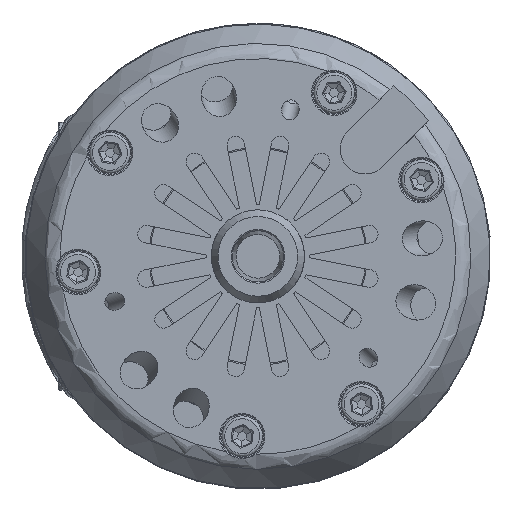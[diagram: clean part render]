
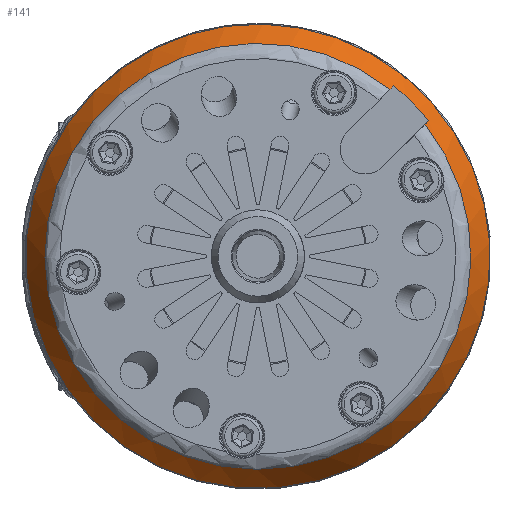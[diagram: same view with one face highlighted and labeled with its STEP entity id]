
A CAD part, front view. The second image highlights one B-rep face of the part: STEP entity #141.
In plain terms, the highlighted conical face has half-angle 30 degrees and reference radius 36.566 mm.
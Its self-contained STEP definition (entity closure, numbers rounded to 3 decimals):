
#141 = ADVANCED_FACE ( 'NONE', ( #37360, #19654 ), #4881, .T. ) ;
#344 = ORIENTED_EDGE ( 'NONE', *, *, #37033, .F. ) ;
#408 = VERTEX_POINT ( 'NONE', #28793 ) ;
#780 = CARTESIAN_POINT ( 'NONE',  ( 0., -16.2, 0. ) ) ;
#2431 = B_SPLINE_CURVE_WITH_KNOTS ( 'NONE', 3,
 ( #33358, #32227, #36531, #40814 ),
 .UNSPECIFIED., .F., .F.,
 ( 4, 4 ),
 ( 0.024, 0.025 ),
 .UNSPECIFIED. ) ;
#2471 = CARTESIAN_POINT ( 'NONE',  ( 28.892, -17.2, 22.881 ) ) ;
#4881 = CONICAL_SURFACE ( 'NONE', #30451, 36.566, 0.524 ) ;
#6023 = ORIENTED_EDGE ( 'NONE', *, *, #21151, .F. ) ;
#7880 = DIRECTION ( 'NONE',  ( 0., -1., 0. ) ) ;
#9950 = DIRECTION ( 'NONE',  ( 0., 1., 0. ) ) ;
#13140 = CIRCLE ( 'NONE', #42294, 36.566 ) ;
#14033 = AXIS2_PLACEMENT_3D ( 'NONE', #780, #9950, #18228 ) ;
#15475 = CARTESIAN_POINT ( 'NONE',  ( 22.676, -17.7, 28.686 ) ) ;
#16451 = CARTESIAN_POINT ( 'NONE',  ( 29.303, -16.2, 23.292 ) ) ;
#16842 = AXIS2_PLACEMENT_3D ( 'NONE', #22087, #49419, #36318 ) ;
#18228 = DIRECTION ( 'NONE',  ( 0.707, 0., -0.707 ) ) ;
#19615 = CARTESIAN_POINT ( 'NONE',  ( 28.686, -17.7, 22.676 ) ) ;
#19654 = FACE_BOUND ( 'NONE', #34693, .T. ) ;
#19901 = CARTESIAN_POINT ( 'NONE',  ( 29.097, -16.7, 23.087 ) ) ;
#20873 = EDGE_CURVE ( 'NONE', #22835, #23662, #44964, .T. ) ;
#21151 = EDGE_CURVE ( 'NONE', #408, #23662, #24799, .T. ) ;
#22087 = CARTESIAN_POINT ( 'NONE',  ( 0., -11.984, 0. ) ) ;
#22835 = VERTEX_POINT ( 'NONE', #39728 ) ;
#23626 = CARTESIAN_POINT ( 'NONE',  ( 29.303, -16.2, 23.292 ) ) ;
#23662 = VERTEX_POINT ( 'NONE', #16451 ) ;
#24364 = ORIENTED_EDGE ( 'NONE', *, *, #29886, .F. ) ;
#24799 = B_SPLINE_CURVE_WITH_KNOTS ( 'NONE', 3,
 ( #19615, #2471, #19901, #23626 ),
 .UNSPECIFIED., .F., .F.,
 ( 4, 4 ),
 ( 0.026, 0.027 ),
 .UNSPECIFIED. ) ;
#26890 = CIRCLE ( 'NONE', #16842, 39.866 ) ;
#27664 = ORIENTED_EDGE ( 'NONE', *, *, #32987, .T. ) ;
#28793 = CARTESIAN_POINT ( 'NONE',  ( 28.686, -17.7, 22.676 ) ) ;
#29886 = EDGE_CURVE ( 'NONE', #33207, #408, #13140, .T. ) ;
#30451 = AXIS2_PLACEMENT_3D ( 'NONE', #36786, #44768, #32481 ) ;
#32227 = CARTESIAN_POINT ( 'NONE',  ( 23.087, -16.7, 29.097 ) ) ;
#32481 = DIRECTION ( 'NONE',  ( -0.707, 0., 0.707 ) ) ;
#32987 = EDGE_CURVE ( 'NONE', #52600, #52600, #26890, .T. ) ;
#33207 = VERTEX_POINT ( 'NONE', #15475 ) ;
#33358 = CARTESIAN_POINT ( 'NONE',  ( 23.292, -16.2, 29.303 ) ) ;
#34693 = EDGE_LOOP ( 'NONE', ( #344, #46973, #6023, #24364 ) ) ;
#36318 = DIRECTION ( 'NONE',  ( 0.707, 0., -0.707 ) ) ;
#36531 = CARTESIAN_POINT ( 'NONE',  ( 22.881, -17.2, 28.892 ) ) ;
#36786 = CARTESIAN_POINT ( 'NONE',  ( 0., -17.7, 0. ) ) ;
#37033 = EDGE_CURVE ( 'NONE', #22835, #33207, #2431, .T. ) ;
#37360 = FACE_OUTER_BOUND ( 'NONE', #48996, .T. ) ;
#39728 = CARTESIAN_POINT ( 'NONE',  ( 23.292, -16.2, 29.303 ) ) ;
#40814 = CARTESIAN_POINT ( 'NONE',  ( 22.676, -17.7, 28.686 ) ) ;
#42294 = AXIS2_PLACEMENT_3D ( 'NONE', #46107, #7880, #42702 ) ;
#42702 = DIRECTION ( 'NONE',  ( 0.707, 0., -0.707 ) ) ;
#44768 = DIRECTION ( 'NONE',  ( 0., 1., 0. ) ) ;
#44964 = CIRCLE ( 'NONE', #14033, 37.432 ) ;
#46107 = CARTESIAN_POINT ( 'NONE',  ( 0., -17.7, 0. ) ) ;
#46973 = ORIENTED_EDGE ( 'NONE', *, *, #20873, .T. ) ;
#48996 = EDGE_LOOP ( 'NONE', ( #27664 ) ) ;
#49419 = DIRECTION ( 'NONE',  ( 0., -1., 0. ) ) ;
#52329 = CARTESIAN_POINT ( 'NONE',  ( 28.19, -11.984, -28.19 ) ) ;
#52600 = VERTEX_POINT ( 'NONE', #52329 ) ;
